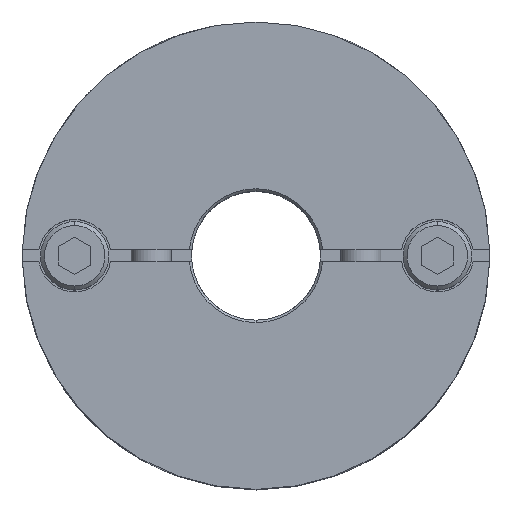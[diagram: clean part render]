
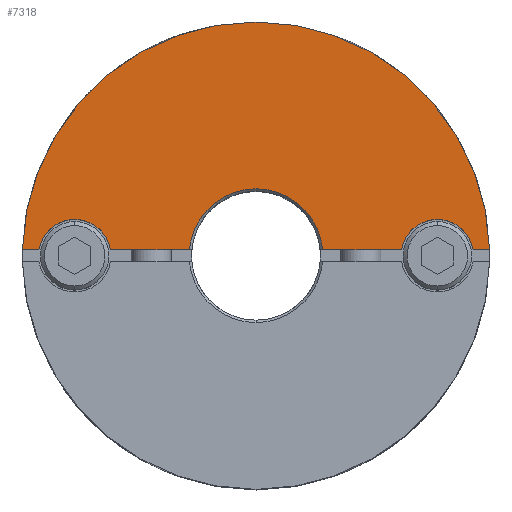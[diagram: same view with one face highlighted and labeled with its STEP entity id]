
A CAD part, top view. The second image highlights one B-rep face of the part: STEP entity #7318.
In plain terms, the highlighted planar face has unit normal (0, 0, 1).
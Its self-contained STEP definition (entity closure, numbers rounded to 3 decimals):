
#605=CARTESIAN_POINT('',(0.,29.,22.4));
#606=VERTEX_POINT('',#605);
#690=CARTESIAN_POINT('',(-28.99,0.75,22.4));
#691=VERTEX_POINT('',#690);
#698=CARTESIAN_POINT('',(0.0,0.,22.4));
#699=DIRECTION('',(0.0,0.0,-1.0));
#700=DIRECTION('',(0.0,1.0,0.0));
#701=AXIS2_PLACEMENT_3D('',#698,#699,#700);
#702=CIRCLE('',#701,29.0);
#703=EDGE_CURVE('',#691,#606,#702,.T.);
#1021=CARTESIAN_POINT('',(0.,8.3,22.4));
#1022=VERTEX_POINT('',#1021);
#1029=CARTESIAN_POINT('',(-8.266,0.75,22.4));
#1030=VERTEX_POINT('',#1029);
#1031=CARTESIAN_POINT('',(0.0,0.,22.4));
#1032=DIRECTION('',(0.0,0.0,1.0));
#1033=DIRECTION('',(0.0,-1.0,0.0));
#1034=AXIS2_PLACEMENT_3D('',#1031,#1032,#1033);
#1035=CIRCLE('',#1034,8.3);
#1036=EDGE_CURVE('',#1022,#1030,#1035,.T.);
#1099=CARTESIAN_POINT('',(-22.5,4.5,22.4));
#1100=VERTEX_POINT('',#1099);
#1109=CARTESIAN_POINT('',(-26.937,0.75,22.4));
#1110=VERTEX_POINT('',#1109);
#1111=CARTESIAN_POINT('',(-22.5,0.,22.4));
#1112=DIRECTION('',(0.0,0.0,-1.0));
#1113=DIRECTION('',(0.0,1.0,0.0));
#1114=AXIS2_PLACEMENT_3D('',#1111,#1112,#1113);
#1115=CIRCLE('',#1114,4.5);
#1116=EDGE_CURVE('',#1110,#1100,#1115,.T.);
#1183=CARTESIAN_POINT('',(22.5,4.5,22.4));
#1184=VERTEX_POINT('',#1183);
#1193=CARTESIAN_POINT('',(18.063,0.75,22.4));
#1194=VERTEX_POINT('',#1193);
#1195=CARTESIAN_POINT('',(22.5,0.,22.4));
#1196=DIRECTION('',(0.0,0.0,-1.0));
#1197=DIRECTION('',(0.0,1.0,0.0));
#1198=AXIS2_PLACEMENT_3D('',#1195,#1196,#1197);
#1199=CIRCLE('',#1198,4.5);
#1200=EDGE_CURVE('',#1194,#1184,#1199,.T.);
#6994=CARTESIAN_POINT('',(26.937,0.75,22.4));
#6995=VERTEX_POINT('',#6994);
#7002=CARTESIAN_POINT('',(22.5,0.,22.4));
#7003=DIRECTION('',(0.0,0.0,-1.0));
#7004=DIRECTION('',(0.0,1.0,0.0));
#7005=AXIS2_PLACEMENT_3D('',#7002,#7003,#7004);
#7006=CIRCLE('',#7005,4.5);
#7007=EDGE_CURVE('',#1184,#6995,#7006,.T.);
#7060=CARTESIAN_POINT('',(-18.063,0.75,22.4));
#7061=VERTEX_POINT('',#7060);
#7068=CARTESIAN_POINT('',(-22.5,0.,22.4));
#7069=DIRECTION('',(0.0,0.0,-1.0));
#7070=DIRECTION('',(0.0,1.0,0.0));
#7071=AXIS2_PLACEMENT_3D('',#7068,#7069,#7070);
#7072=CIRCLE('',#7071,4.5);
#7073=EDGE_CURVE('',#1100,#7061,#7072,.T.);
#7092=CARTESIAN_POINT('',(28.99,0.75,22.4));
#7093=VERTEX_POINT('',#7092);
#7100=CARTESIAN_POINT('',(26.937,0.75,22.4));
#7101=DIRECTION('',(1.0,0.0,0.0));
#7102=VECTOR('',#7101,2.053);
#7103=LINE('',#7100,#7102);
#7104=EDGE_CURVE('',#6995,#7093,#7103,.T.);
#7115=CARTESIAN_POINT('',(8.266,0.75,22.4));
#7116=VERTEX_POINT('',#7115);
#7117=CARTESIAN_POINT('',(8.266,0.75,22.4));
#7118=DIRECTION('',(1.0,0.0,0.0));
#7119=VECTOR('',#7118,9.797);
#7120=LINE('',#7117,#7119);
#7121=EDGE_CURVE('',#7116,#1194,#7120,.T.);
#7277=CARTESIAN_POINT('',(0.,2.636,22.4));
#7278=DIRECTION('',(0.0,0.0,1.0));
#7279=DIRECTION('',(0.0,1.0,0.0));
#7280=AXIS2_PLACEMENT_3D('',#7277,#7278,#7279);
#7281=PLANE('',#7280);
#7282=ORIENTED_EDGE('',*,*,#1200,.T.);
#7283=ORIENTED_EDGE('',*,*,#7007,.T.);
#7284=ORIENTED_EDGE('',*,*,#7104,.T.);
#7285=CARTESIAN_POINT('',(0.0,0.,22.4));
#7286=DIRECTION('',(0.0,0.0,-1.0));
#7287=DIRECTION('',(0.0,1.0,0.0));
#7288=AXIS2_PLACEMENT_3D('',#7285,#7286,#7287);
#7289=CIRCLE('',#7288,29.0);
#7290=EDGE_CURVE('',#606,#7093,#7289,.T.);
#7291=ORIENTED_EDGE('',*,*,#7290,.F.);
#7292=ORIENTED_EDGE('',*,*,#703,.F.);
#7293=CARTESIAN_POINT('',(-28.99,0.75,22.4));
#7294=DIRECTION('',(1.0,0.0,0.0));
#7295=VECTOR('',#7294,2.053);
#7296=LINE('',#7293,#7295);
#7297=EDGE_CURVE('',#691,#1110,#7296,.T.);
#7298=ORIENTED_EDGE('',*,*,#7297,.T.);
#7299=ORIENTED_EDGE('',*,*,#1116,.T.);
#7300=ORIENTED_EDGE('',*,*,#7073,.T.);
#7301=CARTESIAN_POINT('',(-18.063,0.75,22.4));
#7302=DIRECTION('',(1.0,0.0,0.0));
#7303=VECTOR('',#7302,9.797);
#7304=LINE('',#7301,#7303);
#7305=EDGE_CURVE('',#7061,#1030,#7304,.T.);
#7306=ORIENTED_EDGE('',*,*,#7305,.T.);
#7307=ORIENTED_EDGE('',*,*,#1036,.F.);
#7308=CARTESIAN_POINT('',(0.0,0.,22.4));
#7309=DIRECTION('',(0.0,0.0,1.0));
#7310=DIRECTION('',(0.0,-1.0,0.0));
#7311=AXIS2_PLACEMENT_3D('',#7308,#7309,#7310);
#7312=CIRCLE('',#7311,8.3);
#7313=EDGE_CURVE('',#7116,#1022,#7312,.T.);
#7314=ORIENTED_EDGE('',*,*,#7313,.F.);
#7315=ORIENTED_EDGE('',*,*,#7121,.T.);
#7316=EDGE_LOOP('',(#7282,#7283,#7284,#7291,#7292,#7298,#7299,#7300,#7306,#7307,#7314,#7315));
#7317=FACE_OUTER_BOUND('',#7316,.T.);
#7318=ADVANCED_FACE('',(#7317),#7281,.T.);
